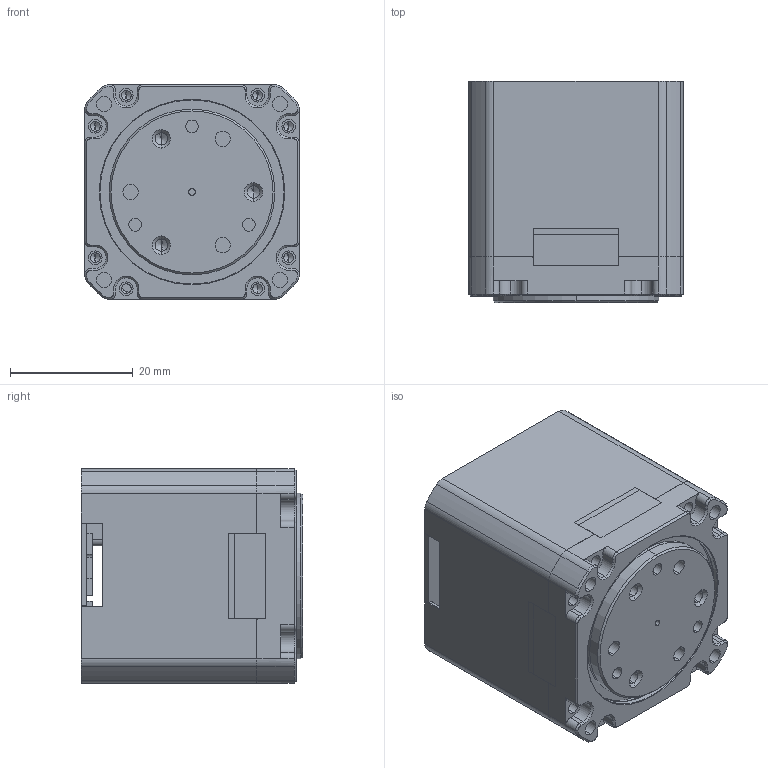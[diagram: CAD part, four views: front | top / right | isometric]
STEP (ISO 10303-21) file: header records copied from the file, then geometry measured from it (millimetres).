
FILE_DESCRIPTION (( 'STEP AP214' ), '1' );
FILE_NAME ('3536潠眢耀倰.STEP', '2025-06-06T06:25:17', ( '' ), ( '' ), 'SwSTEP 2.0', 'SolidWorks 2024', '' );
FILE_SCHEMA (( 'AUTOMOTIVE_DESIGN' ));
Length unit declared in the file: millimetre
Products named in the file (8): 3536-25-32-4-6705 2rs1.3; 3536-外壳-1.3; 3536-32一级4速比内齿-1.3; 3536-电机盖-1.3; 3536简易模型; 3536-32二级8速比输出盘-1.3; 3536-轴承座-1.3; 3536-32二级8速比内齿-1.3
Assembly tree (7 placements, depth 2):
  3536简易模型
    3536-外壳-1.3
    3536-轴承座-1.3
    3536-32一级4速比内齿-1.3
    3536-32二级8速比内齿-1.3
    3536-32二级8速比输出盘-1.3
    3536-25-32-4-6705 2rs1.3
    3536-电机盖-1.3
Bounding box: 35 x 36.1 x 35 mm (x, y, z)
Volume: 16381.8 mm3; surface area: 21742.9 mm2
Topology: 7 solids, 7 shells, 2141 faces, 6141 edges, 4008 vertices
Faces by surface type: cylinder 1336, plane 322, bspline 288, cone 195
Entity records: 77600 total; most frequent: CARTESIAN_POINT 21151, ORIENTED_EDGE 12198, DIRECTION 11847, EDGE_CURVE 6099, AXIS2_PLACEMENT_3D 4654, VERTEX_POINT 4008, CIRCLE 2791, LINE 2539
